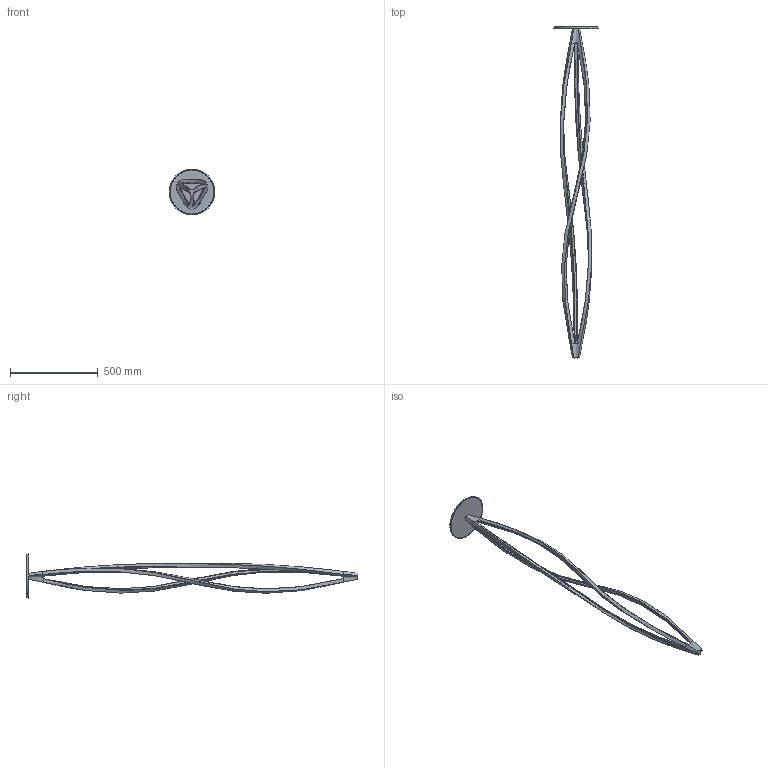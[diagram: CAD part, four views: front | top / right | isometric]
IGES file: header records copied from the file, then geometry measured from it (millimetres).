
Start section: SolidWorks IGES file using analytic representation for surfaces
Global section: file name: C:\Users\tungari.NEMOLIGHTING\Desktop\15_02\FLOOR\3D_IN_THE_WIND_FLOOR\DEFEATURE_IN_THE_WIND\3D_IN_THE_WIND_FLOOR.IGS; native system: SolidWorks 2016; preprocessor: SolidWorks 2016; author: tungari; date: 180219.130308; units: millimetre
Bounding box: 260 x 1893.8 x 260 mm (x, y, z)
Surface area: 823923.9 mm2 (no closed solid volume)
Topology: 0 solids, 0 shells, 133 faces, 1430 edges, 1430 vertices
Faces by surface type: bspline 123, revolution 10
